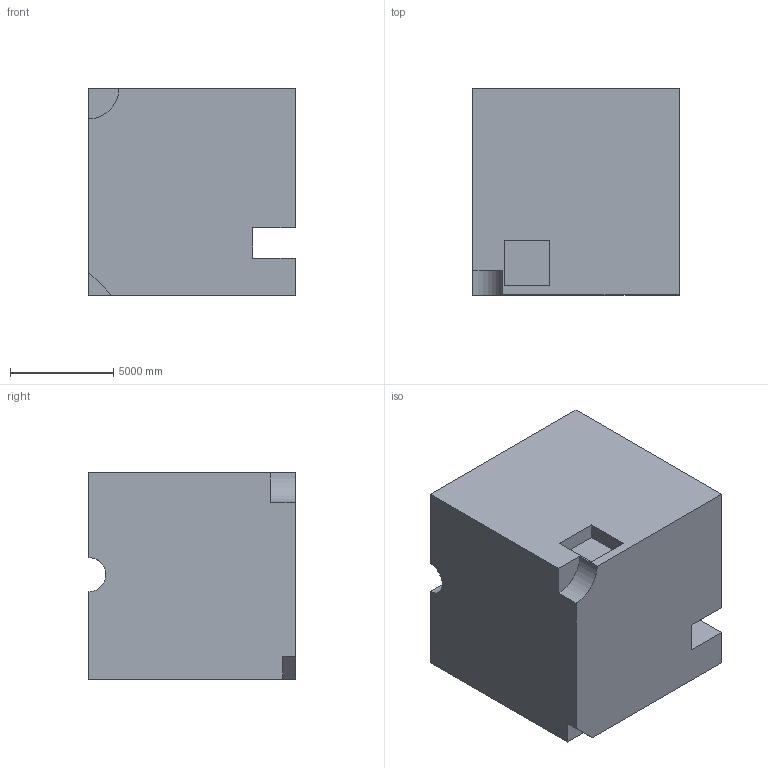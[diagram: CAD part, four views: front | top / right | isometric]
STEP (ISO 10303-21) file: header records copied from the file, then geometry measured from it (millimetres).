
FILE_DESCRIPTION (( 'STEP AP203' ), '1' );
FILE_NAME ('86.STEP', '2022-09-01T12:04:04', ( 'user' ), ( '' ), 'SwSTEP 2.0', 'SolidWorks 2021', '' );
FILE_SCHEMA (( 'CONFIG_CONTROL_DESIGN' ));
Length unit declared in the file: centimetre
Products named in the file (1): 86
Bounding box: 10000 x 10000 x 10000 mm (x, y, z)
Volume: 935718402821 mm3; surface area: 699699228.2 mm2
Topology: 1 solids, 1 shells, 35 faces, 90 edges, 60 vertices
Faces by surface type: plane 28, cylinder 7
Entity records: 1184 total; most frequent: CARTESIAN_POINT 237, ORIENTED_EDGE 180, DIRECTION 175, EDGE_CURVE 90, LINE 75, VECTOR 75, VERTEX_POINT 60, AXIS2_PLACEMENT_3D 50
